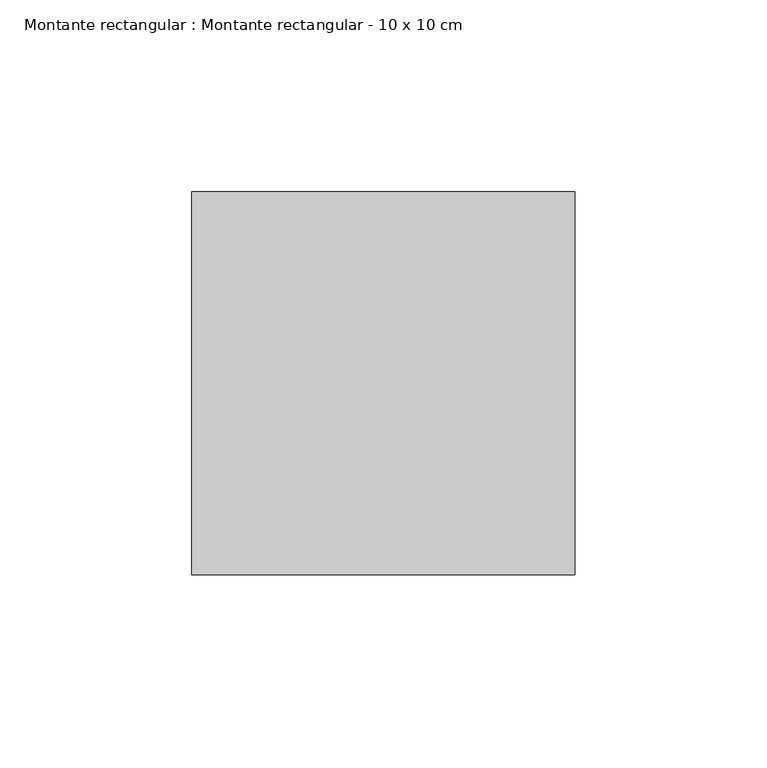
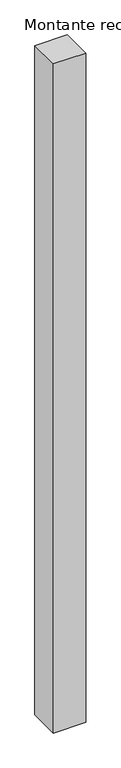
"""IFC4 building model written with IfcOpenShell, lengths in millimetres: member geometry, Montante rectangular : Montante rectangular - 10 x 10 cm."""

from ifc_helpers import new_model, si_unit, frame, origin, place, context, project, spatial, polyline, outline, extrude, source, transform, mapped, element, save


def montante_rectangular_montante_rectangular_10_x_10_cm_65ef7380(model_context):
    return source(origin(), model_context, "Body", "SweptSolid", [
        extrude(outline(polyline([(0.0, 50.0), (0.0, -50.0), (-100.0, -50.0), (-100.0, 50.0), (0.0, 50.0)])), frame((0.0, 0.0, -2200.0), z_axis=(0.0, 0.0, 1.0), x_axis=(1.0, 0.0, 0.0)), (0.0, 0.0, 1.0), 2200.0),
    ])


if __name__ == "__main__":
    model = new_model("IFC4")
    model_context = context("Model", 3, world=origin())
    ifc_project = project(units=[si_unit("LENGTHUNIT", "METRE", prefix="MILLI")], contexts=[model_context])
    site = spatial("IfcSite", under=ifc_project)
    building = spatial("IfcBuilding", under=site)
    placement = place(None, origin())
    montante_rectangular_montante_rectangular_10_x_10_cm_shape = montante_rectangular_montante_rectangular_10_x_10_cm_65ef7380(model_context)
    element("IfcMember", 1, ObjectType="Montante rectangular : Montante rectangular - 10 x 10 cm", at=placement, inside=building, context=model_context, shape_type="MappedRepresentation", body=[
        mapped(montante_rectangular_montante_rectangular_10_x_10_cm_shape, transform((0.0, 0.0, 0.0), x_axis=(1.0, 0.0, 0.0), y_axis=(0.0, 1.0, 0.0), z_axis=(0.0, 0.0, 1.0))),
    ])
    save(model, "model.ifc")
